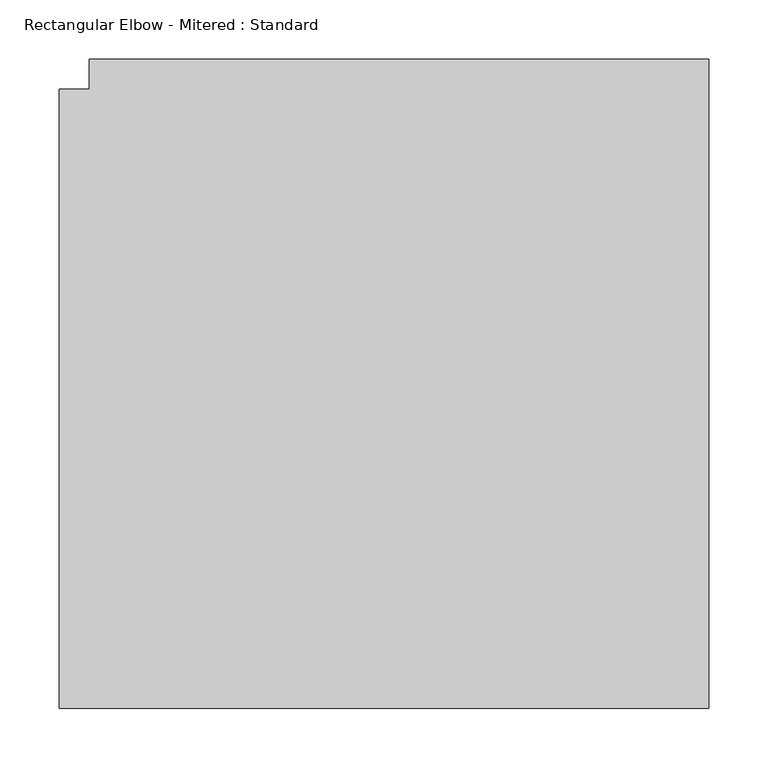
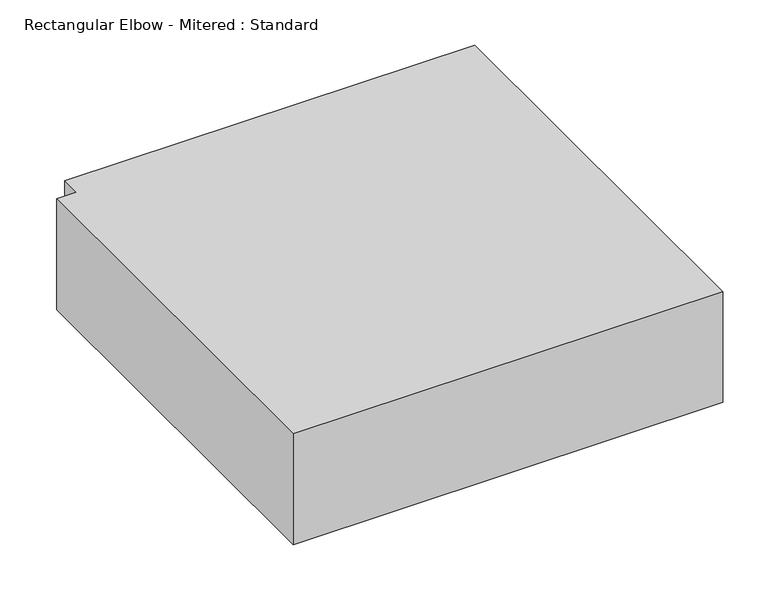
"""IFC4 building model written with IfcOpenShell, lengths in millimetres: duct fitting geometry, Rectangular Elbow - Mitered : Standard."""

from ifc_helpers import new_model, si_unit, frame, origin, place, context, project, spatial, polyline, outline, extrude, source, transform, mapped, element, save


def rectangular_elbow_mitered_standard_6ca1f2d5(model_context):
    return source(origin(), model_context, "Body", "SweptSolid", [
        extrude(outline(polyline([(-287.9, -262.5), (-287.9, 262.5), (-262.5, 262.5), (-262.5, 287.9), (262.5, 287.9), (262.5, -262.5), (-287.9, -262.5)])), frame((0.0, 0.0, -75.0), z_axis=(0.0, 0.0, 1.0), x_axis=(1.0, 0.0, 0.0)), (0.0, 0.0, 1.0), 150.0),
    ])


if __name__ == "__main__":
    model = new_model("IFC4")
    model_context = context("Model", 3, world=origin())
    ifc_project = project(units=[si_unit("LENGTHUNIT", "METRE", prefix="MILLI")], contexts=[model_context])
    site = spatial("IfcSite", under=ifc_project)
    building = spatial("IfcBuilding", under=site)
    placement = place(None, origin())
    rectangular_elbow_mitered_standard_shape = rectangular_elbow_mitered_standard_6ca1f2d5(model_context)
    element("IfcDuctFitting", 1, ObjectType="Rectangular Elbow - Mitered : Standard", at=placement, inside=building, context=model_context, shape_type="MappedRepresentation", body=[
        mapped(rectangular_elbow_mitered_standard_shape, transform((0.0, 0.0, 0.0), x_axis=(1.0, 0.0, 0.0), y_axis=(0.0, 1.0, 0.0), z_axis=(0.0, 0.0, 1.0))),
    ])
    save(model, "model.ifc")
